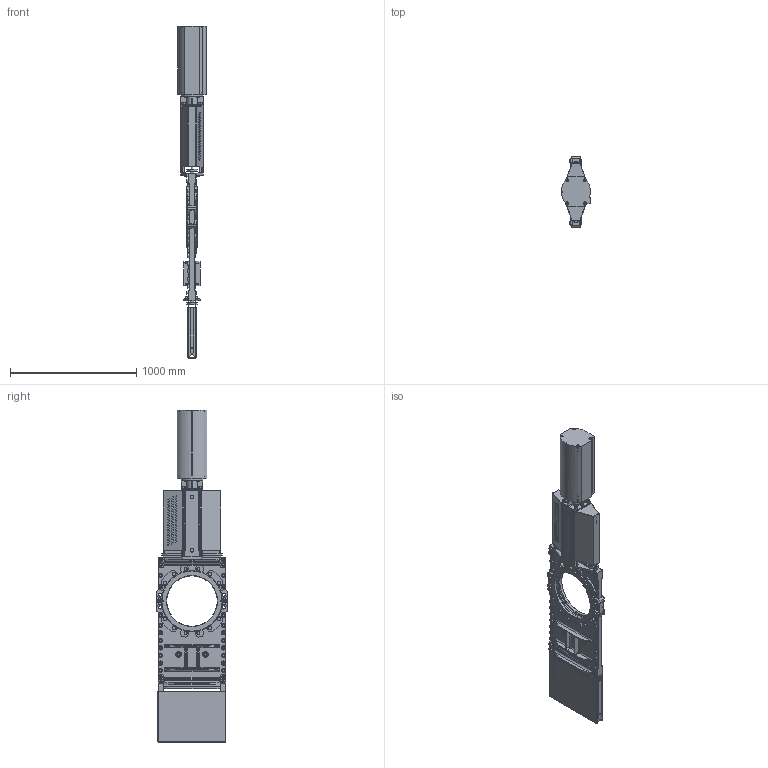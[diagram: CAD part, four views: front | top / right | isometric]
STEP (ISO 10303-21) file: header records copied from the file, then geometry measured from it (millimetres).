
FILE_DESCRIPTION(('STEP AP203'),'1');
FILE_NAME('F:/3D-block färdiga för export/HL/HL-DN400-PN10-EC200.stp','2017-04-10T13:17:34',(' '),(' '),'Spatial InterOp 3D',' ',' ');
FILE_SCHEMA(('CONFIG_CONTROL_DESIGN'));
Length unit declared in the file: millimetre
Products named in the file (49): 1; 2; 3; 4; 5; 6; 7; 8; 9; 10; 11; 12; 13; 14; 15; 16; 17; 18; 19; 20; 21; 22; 23; 24; 25; 26; 27; 28; 29; 30; 31; 32; 33; 34; 35; 36; 37; 38; 39; 40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
Bounding box: 228.6 x 570.93 x 2634.52 mm (x, y, z)
Volume: 39365447.5 mm3; surface area: 6418675.4 mm2
Topology: 49 solids, 49 shells, 3336 faces, 8197 edges, 5118 vertices
Faces by surface type: plane 1556, cylinder 945, cone 733, torus 54, bspline 28, sphere 20
Full cylindrical faces by diameter (mm): 3.7 x8, 4.5 x8, 5 x2, 7 x8, 8 x4, 8.376 x4, 9.5 x2, 10 x3, 11.7 x2, 12 x8, 13 x4, 13.835 x4, 14.5 x8, 15 x18, 16 x64, 17 x8, 17.5 x30, 18.186 x4, 21.5 x8, 24 x24, 25 x1, 27 x4, 28 x2, 30 x4, 33 x52, 40 x4, 40.2 x2, 45.4 x1, 50 x1, 75 x1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
Entity records: 108258 total; most frequent: CARTESIAN_POINT 29953, DIRECTION 15782, ORIENTED_EDGE 15162, EDGE_CURVE 7581, AXIS2_PLACEMENT_3D 6204, VERTEX_POINT 4997, EDGE_LOOP 4444, FACE_OUTER_BOUND 3690
